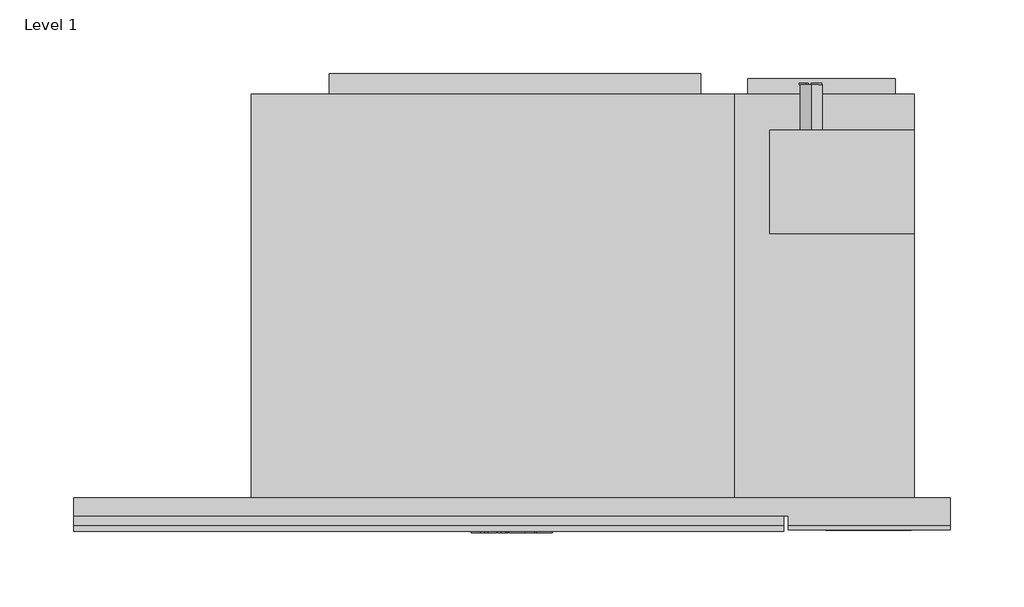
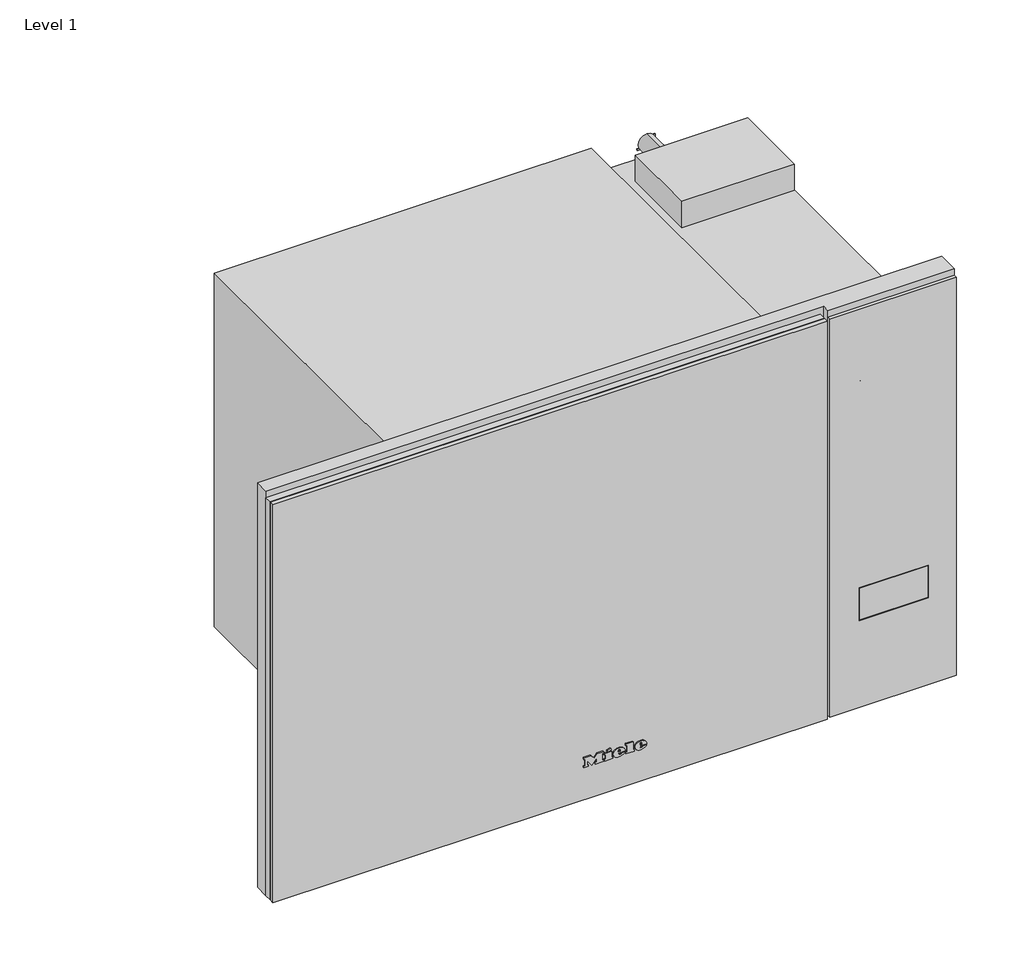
# One storey: 1 proxy.
"""IFC4 building model written with IfcOpenShell, lengths in millimetres."""

from ifc_helpers import new_model, si_unit, origin, place, context, project, spatial, transform, mapped, element, save
from components import specialty_equipment_cf71ed80

model = new_model("IFC4")

# Units and contexts
model_context = context("Model", 3, world=origin())
ifc_project = project(units=[si_unit("LENGTHUNIT", "METRE", prefix="MILLI")], contexts=[model_context])

# Site, building, storey
site = spatial("IfcSite", under=ifc_project)
building = spatial("IfcBuilding", under=site)
storey = spatial("IfcBuildingStorey", under=building, Name="Level 1", Elevation=0.0)

# Proxy
placement = place(None, origin())
specialty_equipment_shape = specialty_equipment_cf71ed80(model_context)
element("IfcBuildingElementProxy", 1, Name="11103460_D_M2234SC_OBSW : 24223420_D_11103460_M2234SC_OBSW", ObjectType="11103460_D_M2234SC_OBSW : 24223420_D_11103460_M2234SC_OBSW", at=placement, inside=storey, context=model_context, shape_type="MappedRepresentation", body=[
    mapped(specialty_equipment_shape, transform((0.0, 0.0, 0.0), x_axis=(1.0, 0.0, 0.0), y_axis=(0.0, 1.0, 0.0), z_axis=(0.0, 0.0, 1.0))),
])

save(model, "model.ifc")
